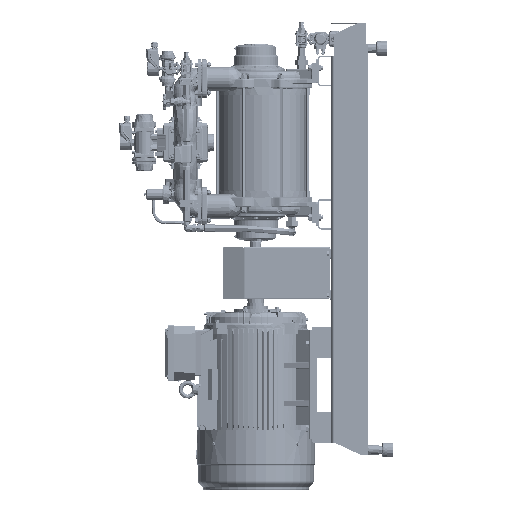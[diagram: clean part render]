
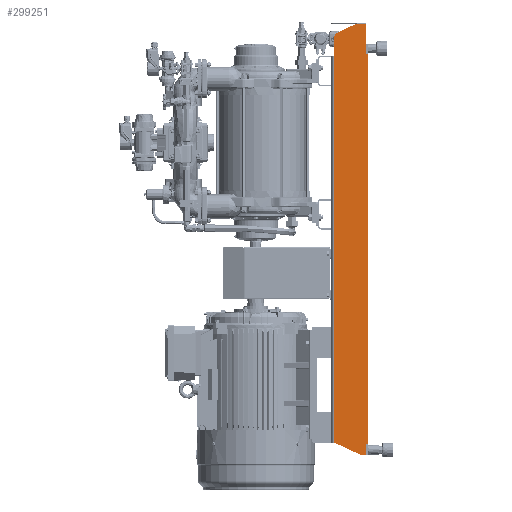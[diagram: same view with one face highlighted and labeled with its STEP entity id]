
A CAD part, left-side view. The second image highlights one B-rep face of the part: STEP entity #299251.
In plain terms, the highlighted planar face has unit normal (-1, 0, 0).
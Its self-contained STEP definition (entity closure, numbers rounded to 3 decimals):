
#11080=PLANE('',#330092);
#31557=CIRCLE('',#330093,25.);
#48176=FACE_OUTER_BOUND('',#66762,.T.);
#66762=EDGE_LOOP('',(#264896,#264897,#264898,#264899,#264900,#264901,#264902,
#264903,#264904,#264905,#264906,#264907));
#84804=LINE('',#857188,#104033);
#85512=LINE('',#859393,#104741);
#85513=LINE('',#859395,#104742);
#85514=LINE('',#859396,#104743);
#85515=LINE('',#859398,#104744);
#85516=LINE('',#859402,#104745);
#85517=LINE('',#859404,#104746);
#85518=LINE('',#859406,#104747);
#85519=LINE('',#859408,#104748);
#85520=LINE('',#859410,#104749);
#85521=LINE('',#859411,#104750);
#104033=VECTOR('',#402810,10.);
#104741=VECTOR('',#404744,10.);
#104742=VECTOR('',#404745,10.);
#104743=VECTOR('',#404746,10.);
#104744=VECTOR('',#404747,10.);
#104745=VECTOR('',#404750,10.);
#104746=VECTOR('',#404751,10.);
#104747=VECTOR('',#404752,10.);
#104748=VECTOR('',#404753,10.);
#104749=VECTOR('',#404754,10.);
#104750=VECTOR('',#404755,10.);
#138699=VERTEX_POINT('',#857185);
#138700=VERTEX_POINT('',#857187);
#139325=VERTEX_POINT('',#859391);
#139326=VERTEX_POINT('',#859392);
#139327=VERTEX_POINT('',#859394);
#139328=VERTEX_POINT('',#859397);
#139329=VERTEX_POINT('',#859399);
#139330=VERTEX_POINT('',#859401);
#139331=VERTEX_POINT('',#859403);
#139332=VERTEX_POINT('',#859405);
#139333=VERTEX_POINT('',#859407);
#139334=VERTEX_POINT('',#859409);
#180348=EDGE_CURVE('',#138699,#138700,#84804,.T.);
#181380=EDGE_CURVE('',#139325,#139326,#85512,.T.);
#181381=EDGE_CURVE('',#139325,#139327,#85513,.T.);
#181382=EDGE_CURVE('',#138700,#139327,#85514,.T.);
#181383=EDGE_CURVE('',#139328,#138699,#85515,.T.);
#181384=EDGE_CURVE('',#139329,#139328,#31557,.T.);
#181385=EDGE_CURVE('',#139330,#139329,#85516,.T.);
#181386=EDGE_CURVE('',#139330,#139331,#85517,.T.);
#181387=EDGE_CURVE('',#139332,#139331,#85518,.T.);
#181388=EDGE_CURVE('',#139333,#139332,#85519,.T.);
#181389=EDGE_CURVE('',#139333,#139334,#85520,.T.);
#181390=EDGE_CURVE('',#139334,#139326,#85521,.T.);
#264896=ORIENTED_EDGE('',*,*,#181380,.F.);
#264897=ORIENTED_EDGE('',*,*,#181381,.T.);
#264898=ORIENTED_EDGE('',*,*,#181382,.F.);
#264899=ORIENTED_EDGE('',*,*,#180348,.F.);
#264900=ORIENTED_EDGE('',*,*,#181383,.F.);
#264901=ORIENTED_EDGE('',*,*,#181384,.F.);
#264902=ORIENTED_EDGE('',*,*,#181385,.F.);
#264903=ORIENTED_EDGE('',*,*,#181386,.T.);
#264904=ORIENTED_EDGE('',*,*,#181387,.F.);
#264905=ORIENTED_EDGE('',*,*,#181388,.F.);
#264906=ORIENTED_EDGE('',*,*,#181389,.T.);
#264907=ORIENTED_EDGE('',*,*,#181390,.T.);
#299251=ADVANCED_FACE('',(#48176),#11080,.T.);
#330092=AXIS2_PLACEMENT_3D('',#859390,#404742,#404743);
#330093=AXIS2_PLACEMENT_3D('',#859400,#404748,#404749);
#402810=DIRECTION('',(0.,-1.,0.));
#404742=DIRECTION('center_axis',(-1.,0.,0.));
#404743=DIRECTION('ref_axis',(0.,0.,
-1.));
#404744=DIRECTION('',(0.,0.,-1.));
#404745=DIRECTION('',(0.,1.,0.));
#404746=DIRECTION('',(0.,0.,-1.));
#404747=DIRECTION('',(0.,-0.906,0.423));
#404748=DIRECTION('center_axis',(1.,0.,0.));
#404749=DIRECTION('ref_axis',(0.,0.843,0.537));
#404750=DIRECTION('',(0.,0.,1.));
#404751=DIRECTION('',(0.,0.,-1.));
#404752=DIRECTION('',(0.,0.906,0.423));
#404753=DIRECTION('',(0.,1.,0.));
#404754=DIRECTION('',(0.,0.,1.));
#404755=DIRECTION('',(0.,-1.,0.));
#857185=CARTESIAN_POINT('',(-254.,51.196,923.75));
#857187=CARTESIAN_POINT('',(-254.,6.,923.75));
#857188=CARTESIAN_POINT('',(-254.,51.196,923.75));
#859390=CARTESIAN_POINT('Origin',(-254.,403.586,0.));
#859391=CARTESIAN_POINT('',(-254.,0.,799.75));
#859392=CARTESIAN_POINT('',(-254.,0.,-799.75));
#859393=CARTESIAN_POINT('',(-254.,0.,-793.75));
#859394=CARTESIAN_POINT('',(-254.,6.,799.75));
#859395=CARTESIAN_POINT('',(-254.,201.793,799.75));
#859396=CARTESIAN_POINT('',(-254.,6.,923.75));
#859397=CARTESIAN_POINT('',(-254.,123.565,890.004));
#859398=CARTESIAN_POINT('',(-254.,138.,883.273));
#859399=CARTESIAN_POINT('',(-254.,138.,867.346));
#859400=CARTESIAN_POINT('Origin',(-254.,113.,867.346));
#859401=CARTESIAN_POINT('',(-254.,138.,793.75));
#859402=CARTESIAN_POINT('',(-254.,138.,793.75));
#859403=CARTESIAN_POINT('',(-254.,138.,-793.75));
#859404=CARTESIAN_POINT('',(-254.,138.,0.));
#859405=CARTESIAN_POINT('',(-254.,30.775,-843.75));
#859406=CARTESIAN_POINT('',(-254.,30.775,-843.75));
#859407=CARTESIAN_POINT('',(-254.,6.,-843.75));
#859408=CARTESIAN_POINT('',(-254.,0.,-843.75));
#859409=CARTESIAN_POINT('',(-254.,6.,-799.75));
#859410=CARTESIAN_POINT('',(-254.,6.,-410.875));
#859411=CARTESIAN_POINT('',(-254.,201.793,-799.75));
